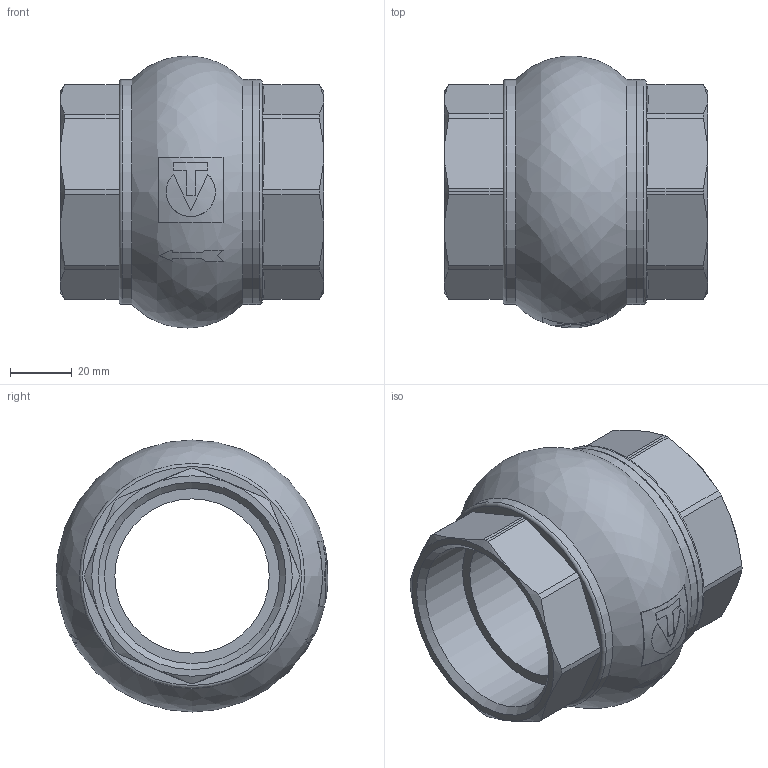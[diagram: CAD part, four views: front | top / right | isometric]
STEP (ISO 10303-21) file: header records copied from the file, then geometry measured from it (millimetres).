
FILE_DESCRIPTION(('TFLEX Exchange Step'),'2;1');
FILE_NAME('Check valve DN50, 2 VT.151.N.09 Valtec.stp', '2023-09-12T13:26:06+03:00',('denis'),('Unknown organisation'),'TFLEX Exchange 2023.0','T-FLEX CAD','Unknown authorisation');
FILE_SCHEMA( ('AUTOMOTIVE_DESIGN { 1 0 10303 214 1 1 1 1 }') );
Length unit declared in the file: millimetre
Products named in the file (1): Nodes
Bounding box: 85.3 x 88.12 x 88.14 mm (x, y, z)
Volume: 186937.8 mm3; surface area: 39020.3 mm2
Topology: 1 solids, 1 shells, 131 faces, 356 edges, 239 vertices
Faces by surface type: plane 77, cylinder 29, bspline 18, cone 5, torus 2
Full cylindrical faces by diameter (mm): 50 x1, 56.7 x2, 72.73 x1, 72.93 x3
Entity records: 5798 total; most frequent: CARTESIAN_POINT 2851, ORIENTED_EDGE 712, DIRECTION 476, EDGE_CURVE 356, VERTEX_POINT 239, AXIS2_PLACEMENT_3D 181, EDGE_LOOP 145, FACE_BOUND 145
